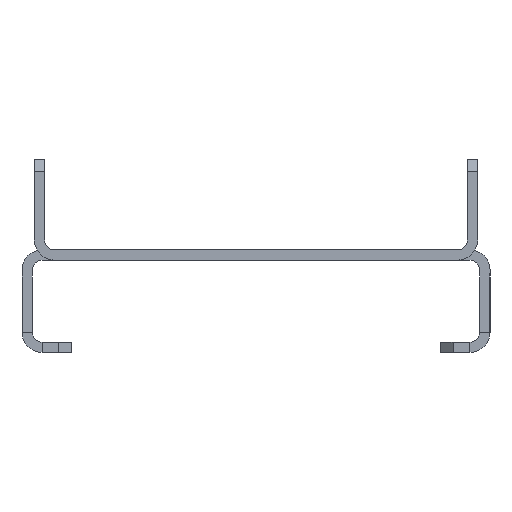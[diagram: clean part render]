
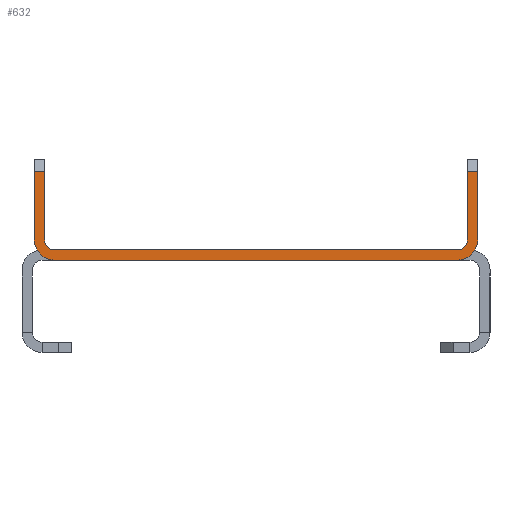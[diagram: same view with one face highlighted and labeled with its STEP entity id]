
A CAD part, front view. The second image highlights one B-rep face of the part: STEP entity #632.
In plain terms, the highlighted planar face has unit normal (0, -1, 0).
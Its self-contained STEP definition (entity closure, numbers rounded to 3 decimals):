
#10 = VECTOR ( 'NONE', #1366, 1000. ) ;
#11 = VECTOR ( 'NONE', #1357, 1000. ) ;
#12 = VECTOR ( 'NONE', #1369, 1000. ) ;
#97 = AXIS2_PLACEMENT_3D ( 'NONE', #1023, #1022, #1021 ) ;
#100 = FACE_OUTER_BOUND ( 'NONE', #1867, .T. ) ;
#111 = VECTOR ( 'NONE', #1351, 1000. ) ;
#316 = EDGE_CURVE ( 'NONE', #2312, #2313, #2145, .T. ) ;
#347 = EDGE_CURVE ( 'NONE', #2326, #2341, #2038, .T. ) ;
#388 = EDGE_CURVE ( 'NONE', #2429, #2313, #556, .T. ) ;
#389 = EDGE_CURVE ( 'NONE', #2424, #2341, #555, .T. ) ;
#396 = EDGE_CURVE ( 'NONE', #2429, #2442, #1850, .T. ) ;
#447 = EDGE_CURVE ( 'NONE', #2326, #2401, #673, .T. ) ;
#450 = EDGE_CURVE ( 'NONE', #2312, #2403, #675, .T. ) ;
#455 = EDGE_CURVE ( 'NONE', #2401, #2407, #1431, .T. ) ;
#475 = EDGE_CURVE ( 'NONE', #2417, #2403, #1371, .T. ) ;
#476 = EDGE_CURVE ( 'NONE', #2424, #2437, #1368, .T. ) ;
#479 = EDGE_CURVE ( 'NONE', #2417, #2407, #1359, .T. ) ;
#481 = EDGE_CURVE ( 'NONE', #2437, #2442, #1353, .T. ) ;
#555 = CIRCLE ( 'NONE', #1606, 4.9 ) ;
#556 = CIRCLE ( 'NONE', #1701, 2.4 ) ;
#632 = ADVANCED_FACE ( 'NONE', ( #100 ), #1024, .T. ) ;
#673 = CIRCLE ( 'NONE', #1541, 4.9 ) ;
#675 = CIRCLE ( 'NONE', #1532, 2.4 ) ;
#838 = CARTESIAN_POINT ( 'NONE',  ( 51.5, -856.5, 21.5 ) ) ;
#840 = CARTESIAN_POINT ( 'NONE',  ( 54., -856.5, 21.5 ) ) ;
#844 = CARTESIAN_POINT ( 'NONE',  ( 51.5, -856.5, 4.9 ) ) ;
#845 = CARTESIAN_POINT ( 'NONE',  ( 54., -856.5, 4.9 ) ) ;
#848 = CARTESIAN_POINT ( 'NONE',  ( -51.5, -856.5, 21.5 ) ) ;
#854 = CARTESIAN_POINT ( 'NONE',  ( -54., -856.5, 21.5 ) ) ;
#856 = CARTESIAN_POINT ( 'NONE',  ( -51.5, -856.5, 4.9 ) ) ;
#858 = CARTESIAN_POINT ( 'NONE',  ( -54., -856.5, 4.9 ) ) ;
#899 = CARTESIAN_POINT ( 'NONE',  ( 49.1, -856.5, 0. ) ) ;
#912 = CARTESIAN_POINT ( 'NONE',  ( -49.1, -856.5, 0. ) ) ;
#924 = CARTESIAN_POINT ( 'NONE',  ( 49.1, -856.5, 2.5 ) ) ;
#925 = CARTESIAN_POINT ( 'NONE',  ( -49.1, -856.5, 2.5 ) ) ;
#1021 = DIRECTION ( 'NONE',  ( 0., 0., -1. ) ) ;
#1022 = DIRECTION ( 'NONE',  ( 0., -1., 0. ) ) ;
#1023 = CARTESIAN_POINT ( 'NONE',  ( -54., -856.5, -22.5 ) ) ;
#1024 = PLANE ( 'NONE',  #97 ) ;
#1351 = DIRECTION ( 'NONE',  ( -1., 0., 0. ) ) ;
#1352 = CARTESIAN_POINT ( 'NONE',  ( 51.5, -856.5, 21.5 ) ) ;
#1353 = LINE ( 'NONE', #1352, #111 ) ;
#1357 = DIRECTION ( 'NONE',  ( -1., 0., 0. ) ) ;
#1358 = CARTESIAN_POINT ( 'NONE',  ( -54., -856.5, 21.5 ) ) ;
#1359 = LINE ( 'NONE', #1358, #11 ) ;
#1366 = DIRECTION ( 'NONE',  ( 0., 0., 1. ) ) ;
#1367 = CARTESIAN_POINT ( 'NONE',  ( 54., -856.5, -22.5 ) ) ;
#1368 = LINE ( 'NONE', #1367, #10 ) ;
#1369 = DIRECTION ( 'NONE',  ( 0., 0., -1. ) ) ;
#1370 = CARTESIAN_POINT ( 'NONE',  ( -51.5, -856.5, 24.5 ) ) ;
#1371 = LINE ( 'NONE', #1370, #12 ) ;
#1429 = DIRECTION ( 'NONE',  ( 0., 0., 1. ) ) ;
#1430 = CARTESIAN_POINT ( 'NONE',  ( -54., -856.5, -22.5 ) ) ;
#1431 = LINE ( 'NONE', #1430, #1529 ) ;
#1445 = DIRECTION ( 'NONE',  ( 0., 0., -1. ) ) ;
#1446 = DIRECTION ( 'NONE',  ( 0., 1., 0. ) ) ;
#1447 = CARTESIAN_POINT ( 'NONE',  ( -49.1, -856.5, 4.9 ) ) ;
#1454 = DIRECTION ( 'NONE',  ( 0., 0., -1. ) ) ;
#1455 = DIRECTION ( 'NONE',  ( 0., 1., 0. ) ) ;
#1456 = CARTESIAN_POINT ( 'NONE',  ( -49.1, -856.5, 4.9 ) ) ;
#1529 = VECTOR ( 'NONE', #1429, 1000. ) ;
#1532 = AXIS2_PLACEMENT_3D ( 'NONE', #1447, #1446, #1445 ) ;
#1541 = AXIS2_PLACEMENT_3D ( 'NONE', #1456, #1455, #1454 ) ;
#1591 = VECTOR ( 'NONE', #1848, 1000. ) ;
#1606 = AXIS2_PLACEMENT_3D ( 'NONE', #1876, #1875, #1874 ) ;
#1616 = VECTOR ( 'NONE', #2143, 1000. ) ;
#1701 = AXIS2_PLACEMENT_3D ( 'NONE', #1886, #1878, #1877 ) ;
#1702 = VECTOR ( 'NONE', #2034, 1000. ) ;
#1848 = DIRECTION ( 'NONE',  ( 0., 0., 1. ) ) ;
#1849 = CARTESIAN_POINT ( 'NONE',  ( 51.5, -856.5, 2.5 ) ) ;
#1850 = LINE ( 'NONE', #1849, #1591 ) ;
#1867 = EDGE_LOOP ( 'NONE', ( #2774, #2775, #2773, #2777, #2776, #2778, #2779, #2780, #2782, #2783, #2781, #2784 ) ) ;
#1874 = DIRECTION ( 'NONE',  ( 0., 0., -1. ) ) ;
#1875 = DIRECTION ( 'NONE',  ( 0., 1., 0. ) ) ;
#1876 = CARTESIAN_POINT ( 'NONE',  ( 49.1, -856.5, 4.9 ) ) ;
#1877 = DIRECTION ( 'NONE',  ( 0., 0., -1. ) ) ;
#1878 = DIRECTION ( 'NONE',  ( 0., 1., 0. ) ) ;
#1886 = CARTESIAN_POINT ( 'NONE',  ( 49.1, -856.5, 4.9 ) ) ;
#2034 = DIRECTION ( 'NONE',  ( 1., 0., 0. ) ) ;
#2035 = CARTESIAN_POINT ( 'NONE',  ( -57., -856.5, 0. ) ) ;
#2038 = LINE ( 'NONE', #2035, #1702 ) ;
#2143 = DIRECTION ( 'NONE',  ( 1., 0., 0. ) ) ;
#2144 = CARTESIAN_POINT ( 'NONE',  ( -57., -856.5, 2.5 ) ) ;
#2145 = LINE ( 'NONE', #2144, #1616 ) ;
#2312 = VERTEX_POINT ( 'NONE', #925 ) ;
#2313 = VERTEX_POINT ( 'NONE', #924 ) ;
#2326 = VERTEX_POINT ( 'NONE', #912 ) ;
#2341 = VERTEX_POINT ( 'NONE', #899 ) ;
#2401 = VERTEX_POINT ( 'NONE', #858 ) ;
#2403 = VERTEX_POINT ( 'NONE', #856 ) ;
#2407 = VERTEX_POINT ( 'NONE', #854 ) ;
#2417 = VERTEX_POINT ( 'NONE', #848 ) ;
#2424 = VERTEX_POINT ( 'NONE', #845 ) ;
#2429 = VERTEX_POINT ( 'NONE', #844 ) ;
#2437 = VERTEX_POINT ( 'NONE', #840 ) ;
#2442 = VERTEX_POINT ( 'NONE', #838 ) ;
#2773 = ORIENTED_EDGE ( 'NONE', *, *, #455, .F. ) ;
#2774 = ORIENTED_EDGE ( 'NONE', *, *, #475, .F. ) ;
#2775 = ORIENTED_EDGE ( 'NONE', *, *, #479, .T. ) ;
#2776 = ORIENTED_EDGE ( 'NONE', *, *, #347, .T. ) ;
#2777 = ORIENTED_EDGE ( 'NONE', *, *, #447, .F. ) ;
#2778 = ORIENTED_EDGE ( 'NONE', *, *, #389, .F. ) ;
#2779 = ORIENTED_EDGE ( 'NONE', *, *, #476, .T. ) ;
#2780 = ORIENTED_EDGE ( 'NONE', *, *, #481, .T. ) ;
#2781 = ORIENTED_EDGE ( 'NONE', *, *, #316, .F. ) ;
#2782 = ORIENTED_EDGE ( 'NONE', *, *, #396, .F. ) ;
#2783 = ORIENTED_EDGE ( 'NONE', *, *, #388, .T. ) ;
#2784 = ORIENTED_EDGE ( 'NONE', *, *, #450, .T. ) ;
